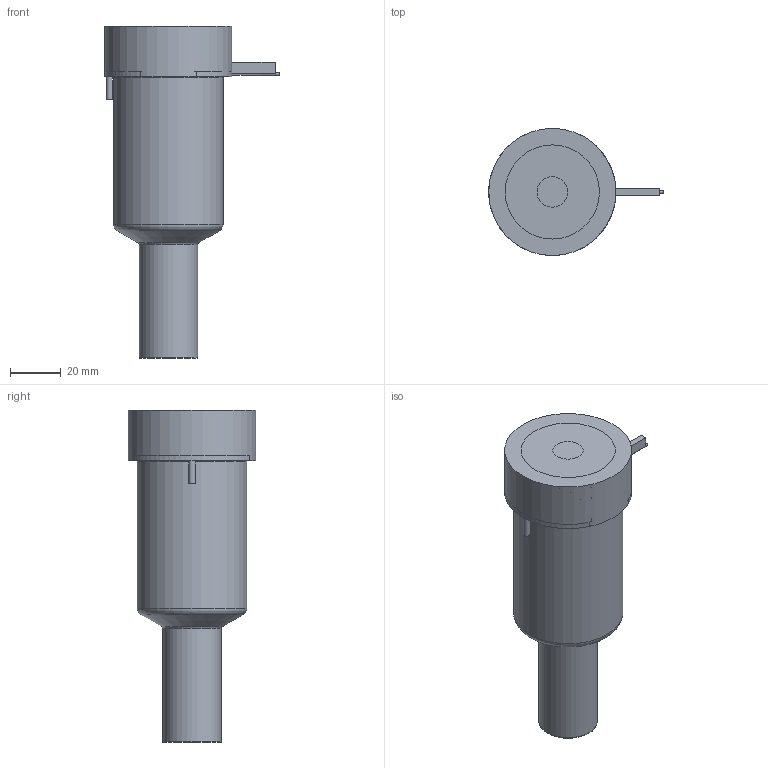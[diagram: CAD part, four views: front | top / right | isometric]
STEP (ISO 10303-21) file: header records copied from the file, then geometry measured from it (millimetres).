
FILE_DESCRIPTION(/* description */ (''),/* implementation_level */ '2;1');
FILE_NAME(/* name */ 'BXYCN27075P4F_200C_a',/* time_stamp */ '2016-02-18T17:26:32+13:00',/* author */ (''),/* organization */ (''),/* preprocessor_version */ 'ST-DEVELOPER v9',/* originating_system */ 'UGS - NX 4.0',/* authorisation */ '');
FILE_SCHEMA (('CONFIG_CONTROL_DESIGN'));
Length unit declared in the file: millimetre
Products named in the file (1): matt5E57pzbo
Bounding box: 68.6 x 50 x 130.5 mm (x, y, z)
Volume: 267909.1 mm3; surface area: 38365.8 mm2
Topology: 2 solids, 2 shells, 66 faces, 149 edges, 97 vertices
Faces by surface type: plane 29, cylinder 21, torus 8, cone 6, bspline 1, sphere 1
Full cylindrical faces by diameter (mm): 1 x2, 2.5 x1, 3 x1, 12 x2, 22.61 x1, 22.995 x2, 27.5 x1, 38.1 x1, 43 x1, 50 x1
Entity records: 2056 total; most frequent: CARTESIAN_POINT 588, DIRECTION 299, ORIENTED_EDGE 242, AXIS2_PLACEMENT_3D 128, EDGE_CURVE 121, EDGE_LOOP 100, VERTEX_POINT 91, ADVANCED_FACE 66
